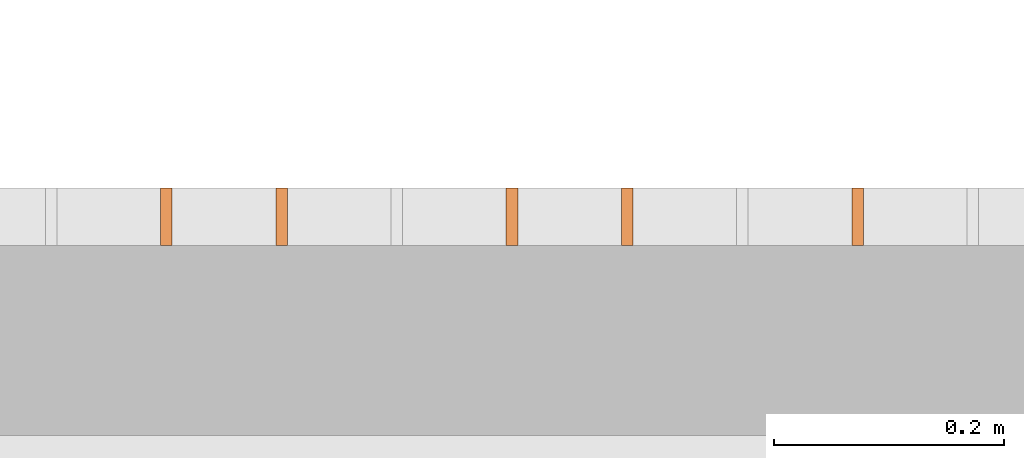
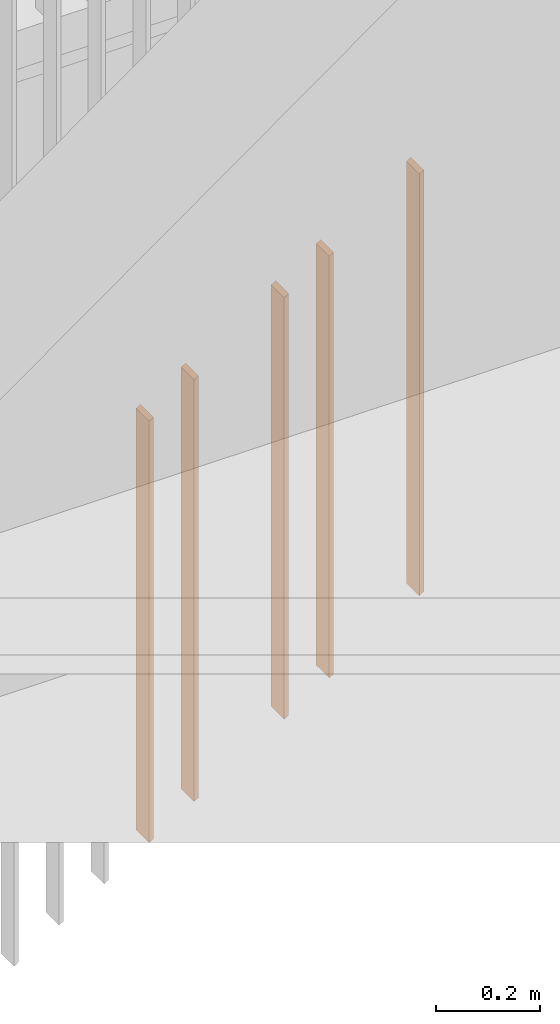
# One storey, part 83 of 100: 5 proxies, 1 element without a shape of its own.
"""IFC2X3 building model written with IfcOpenShell, lengths in millimetres."""

from ifc_helpers import new_model, entity, si_unit, converted_unit, derived_unit, money_unit, direction, frame, origin_with_axes, place, context, subcontext, project, spatial, faceted_brep, source, transform, mapped, material, type_object, element, aggregate, save


model = new_model("IFC2X3")

# Units and contexts
model_context = context("Model", 3, precision=0.01, world=origin_with_axes(), true_north=direction((0.0, 1.0)))
body_context = subcontext(model_context, "Body", "Model", "MODEL_VIEW")
ifc_project = project(units=[si_unit("LENGTHUNIT", "METRE", prefix="MILLI"), si_unit("AREAUNIT", "SQUARE_METRE"), si_unit("VOLUMEUNIT", "CUBIC_METRE"), converted_unit("PLANEANGLEUNIT", "DEGREE", entity("IfcPlaneAngleMeasure", 0.0174532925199), si_unit("PLANEANGLEUNIT", "RADIAN"), dimensions=[0, 0, 0, 0, 0, 0, 0]), si_unit("SOLIDANGLEUNIT", "STERADIAN"), money_unit("EUR"), converted_unit("TIMEUNIT", "Year", entity("IfcTimeMeasure", 31556926.0), si_unit("TIMEUNIT", "SECOND"), dimensions=[0, 0, 1, 0, 0, 0, 0]), si_unit("MASSUNIT", "GRAM", prefix="KILO"), si_unit("THERMODYNAMICTEMPERATUREUNIT", "DEGREE_CELSIUS"), si_unit("LUMINOUSINTENSITYUNIT", "LUMEN"), si_unit("ENERGYUNIT", "JOULE", prefix="MEGA"), derived_unit("THERMALCONDUCTANCEUNIT", [(si_unit("POWERUNIT", "WATT"), 1), (si_unit("LENGTHUNIT", "METRE"), -1), (si_unit("THERMODYNAMICTEMPERATUREUNIT", "KELVIN"), -1)]), derived_unit("SPECIFICHEATCAPACITYUNIT", [(si_unit("ENERGYUNIT", "JOULE"), 1), (si_unit("MASSUNIT", "GRAM", prefix="KILO"), -1), (si_unit("THERMODYNAMICTEMPERATUREUNIT", "KELVIN"), -1)]), derived_unit("MASSDENSITYUNIT", [(si_unit("MASSUNIT", "GRAM", prefix="KILO"), 1), (si_unit("VOLUMEUNIT", "CUBIC_METRE"), -1)])], contexts=[model_context])

# Site, building, storey
site_placement = place(None, origin_with_axes())
site = spatial("IfcSite", under=ifc_project, at=site_placement, Name="Politse- ja Piirivalveameti ning Päästeameti ühishoone", CompositionType="ELEMENT")
building_placement = place(site_placement, origin_with_axes())
building = spatial("IfcBuilding", under=site, at=building_placement, Name="Politse- ja Piirivalveameti ning Päästeameti ühishoone", CompositionType="ELEMENT")
storey_placement = place(building_placement, frame((0.0, 0.0, 3800.0), z_axis=(0.0, 0.0, 1.0), x_axis=(1.0, 0.0, 0.0)))
storey = spatial("IfcBuildingStorey", under=building, at=storey_placement, Name="Teine korrus", CompositionType="ELEMENT", Elevation=3800.0)

# Railing, proxies
railing_type = type_object("IfcRailingType", Name="Railing Type", PredefinedType="NOTDEFINED")
railing_placement = place(storey_placement, frame((18400.0260184, 11585.0198611, -3800.0), z_axis=(0.0, 0.0, 1.0), x_axis=(1.0, 0.0, 0.0)))
railing = element("IfcRailing", 1, at=railing_placement, inside=storey, type_object=railing_type, Name="TREPIPIIRE 6", PredefinedType="NOTDEFINED")
ifc_material = material(Name="Teras - Konstruktsioon")
building_element_proxy_type = type_object("IfcBuildingElementProxyType", Name="IfcBuildingElementProxy", PredefinedType="NOTDEFINED")
shared_shape_1 = source(origin_with_axes(), body_context, "Body", "Brep", [
    faceted_brep([(25.0, 5.0, 3.08441558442), (-25.0, 5.0, 3.08441558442), (-25.0, 5.0, 993.084428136), (25.0, 5.0, 993.084428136), (25.0, -5.0, -3.08441558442), (-25.0, -5.0, -3.08441558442), (-25.0, -5.0, 986.915596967), (25.0, -5.0, 986.915596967)], [[[0, 1, 2, 3]], [[0, 4, 5, 1]], [[1, 5, 6, 2]], [[3, 2, 6, 7]], [[4, 0, 3, 7]], [[5, 4, 7, 6]]]),
])
proxy_1_placement = place(railing_placement, frame((5820.0, -25.0, 3195.4545329), z_axis=(0.0, 0.0, 1.0), x_axis=(1.0, 0.0, 0.0)))
proxy_1 = element("IfcBuildingElementProxy", 2, at=proxy_1_placement, type_object=building_element_proxy_type, material=ifc_material, Name="BALUSTER - 001", context=body_context, shape_type="MappedRepresentation", body=[
    mapped(shared_shape_1, transform((0.0, 0.0, 0.0), x_axis=(0.0, -1.0, 0.0), y_axis=(1.0, 0.0, 0.0), z_axis=(0.0, 0.0, 1.0))),
])
shared_shape_2 = source(origin_with_axes(), body_context, "Body", "Brep", [
    faceted_brep([(25.0, 5.0, 3.08441558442), (-25.0, 5.0, 3.08441558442), (-25.0, 5.0, 993.084428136), (25.0, 5.0, 993.084428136), (25.0, -5.0, -3.08441558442), (-25.0, -5.0, -3.08441558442), (-25.0, -5.0, 986.915596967), (25.0, -5.0, 986.915596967)], [[[0, 1, 2, 3]], [[0, 4, 5, 1]], [[1, 5, 6, 2]], [[3, 2, 6, 7]], [[4, 0, 3, 7]], [[5, 4, 7, 6]]]),
])
proxy_2_placement = place(railing_placement, frame((5320.0, -25.0, 2887.01297446), z_axis=(0.0, 0.0, 1.0), x_axis=(1.0, 0.0, 0.0)))
proxy_2 = element("IfcBuildingElementProxy", 3, at=proxy_2_placement, type_object=building_element_proxy_type, material=ifc_material, Name="BALUSTER - 001", context=body_context, shape_type="MappedRepresentation", body=[
    mapped(shared_shape_2, transform((0.0, 0.0, 0.0), x_axis=(0.0, -1.0, 0.0), y_axis=(1.0, 0.0, 0.0), z_axis=(0.0, 0.0, 1.0))),
])
proxy_3_placement = place(railing_placement, frame((5620.0, -25.0, 3072.07790953), z_axis=(0.0, 0.0, 1.0), x_axis=(1.0, 0.0, 0.0)))
proxy_3 = element("IfcBuildingElementProxy", 4, at=proxy_3_placement, type_object=building_element_proxy_type, material=ifc_material, Name="BALUSTER - 001", context=body_context, shape_type="MappedRepresentation", body=[
    mapped(shared_shape_2, transform((0.0, 0.0, 0.0), x_axis=(0.0, -1.0, 0.0), y_axis=(1.0, 0.0, 0.0), z_axis=(0.0, 0.0, 1.0))),
])
shared_shape_3 = source(origin_with_axes(), body_context, "Body", "Brep", [
    faceted_brep([(25.0, 5.0, 3.08441558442), (-25.0, 5.0, 3.08441558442), (-25.0, 5.0, 993.084428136), (25.0, 5.0, 993.084428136), (25.0, -5.0, -3.08441558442), (-25.0, -5.0, -3.08441558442), (-25.0, -5.0, 986.915596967), (25.0, -5.0, 986.915596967)], [[[0, 1, 2, 3]], [[0, 4, 5, 1]], [[1, 5, 6, 2]], [[3, 2, 6, 7]], [[4, 0, 3, 7]], [[5, 4, 7, 6]]]),
])
proxy_4_placement = place(railing_placement, frame((5220.0, -25.0, 2825.32466277), z_axis=(0.0, 0.0, 1.0), x_axis=(1.0, 0.0, 0.0)))
proxy_4 = element("IfcBuildingElementProxy", 5, at=proxy_4_placement, type_object=building_element_proxy_type, material=ifc_material, Name="BALUSTER - 001", context=body_context, shape_type="MappedRepresentation", body=[
    mapped(shared_shape_3, transform((0.0, 0.0, 0.0), x_axis=(0.0, -1.0, 0.0), y_axis=(1.0, 0.0, 0.0), z_axis=(0.0, 0.0, 1.0))),
])
proxy_5_placement = place(railing_placement, frame((5520.0, -25.0, 3010.38959784), z_axis=(0.0, 0.0, 1.0), x_axis=(1.0, 0.0, 0.0)))
proxy_5 = element("IfcBuildingElementProxy", 6, at=proxy_5_placement, type_object=building_element_proxy_type, material=ifc_material, Name="BALUSTER - 001", context=body_context, shape_type="MappedRepresentation", body=[
    mapped(shared_shape_3, transform((0.0, 0.0, 0.0), x_axis=(0.0, -1.0, 0.0), y_axis=(1.0, 0.0, 0.0), z_axis=(0.0, 0.0, 1.0))),
])
aggregate(railing, [proxy_4, proxy_2, proxy_5, proxy_3, proxy_1])

save(model, "model.ifc")
